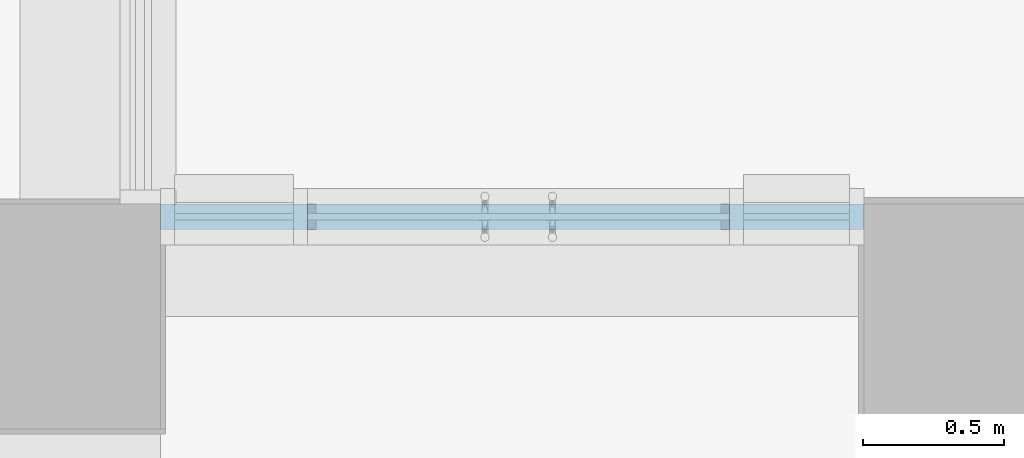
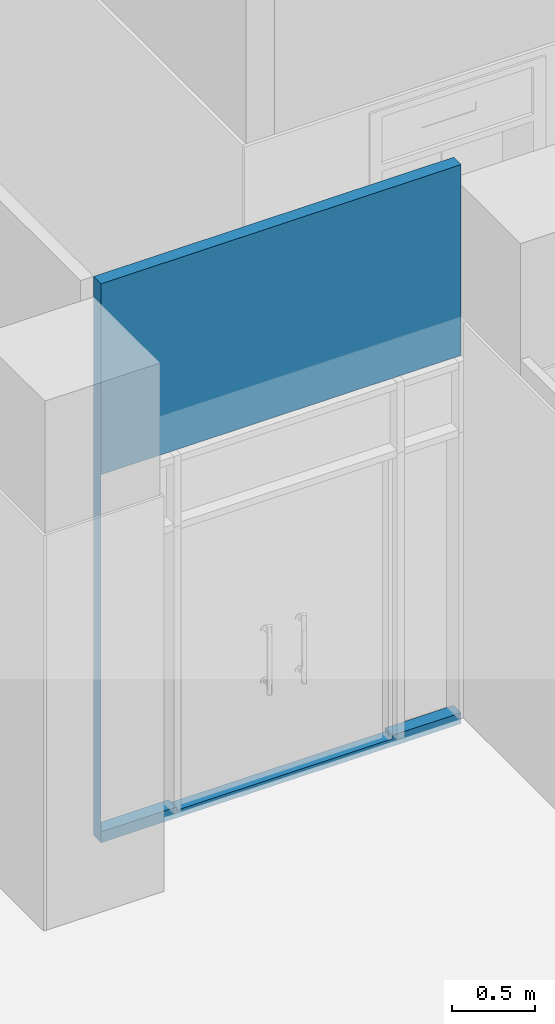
# One storey, part 44 of 76: 1 wall, 5 openings.
"""IFC2X3 building model written with IfcOpenShell, lengths in millimetres."""

import ifcopenshell
import ifcopenshell.guid

model = None  # the IFC model being written
_history = None  # IfcOwnerHistory: only IFC2X3 demands one
_inside = {}  # id of a spatial element -> (the spatial element, [elements in it])
_under = {}  # id of a project, library or spatial element -> (it, [spatial elements below it])
_declared = {}  # id of a project -> (the project, [libraries it declares])
_typed = {}  # id of a type object -> (the type object, [elements of that type])
_made_of = {}  # id of a material, layer set ... -> (it, [elements and type objects made of it])


def new_model(schema):
    """Start an empty IFC model of exactly this schema.

    Asked for "IFC4X3", IfcOpenShell would pick the latest addendum, in which some entities
    have other attributes; the version numbers below select the first issue.
    IFC2X3 requires an IfcOwnerHistory on every rooted entity: one is made here for all.
    """
    global model, _history
    if schema == "IFC4X3":
        model = ifcopenshell.file(schema_version=(4, 3, 0, 0))
    else:
        model = ifcopenshell.file(schema=schema)
    _inside.clear()
    _under.clear()
    _declared.clear()
    _typed.clear()
    _made_of.clear()
    _history = None
    if model.schema == "IFC2X3":
        org = make("IfcOrganization", Name="unknown")
        user = make(
            "IfcPersonAndOrganization",
            ThePerson=make("IfcPerson", FamilyName="unknown"),
            TheOrganization=org,
        )
        app = make(
            "IfcApplication",
            ApplicationDeveloper=org,
            Version="unknown",
            ApplicationFullName="unknown",
            ApplicationIdentifier="unknown",
        )
        _history = make(
            "IfcOwnerHistory",
            OwningUser=user,
            OwningApplication=app,
            ChangeAction="ADDED",
            CreationDate=0,
        )
    return model


def make(cls, **values):
    """One entity of the class cls with the attributes given. An attribute that is None is left unset."""
    return model.create_entity(
        cls, **{name: value for name, value in values.items() if value is not None}
    )


def entity(cls, *values):
    """Any entity or typed value of the class cls, its attributes in the order of the schema. None: left unset."""
    e = model.create_entity(cls)
    for i, value in enumerate(values):
        if value is not None:
            e[i] = value
    return e


def rooted(cls, **values):
    """An entity with a GlobalId (a new one), such as an element, a storey or a relation."""
    return make(cls, GlobalId=ifcopenshell.guid.new(), OwnerHistory=_history, **values)


def si_unit(unit_type, name, prefix=None):
    """IfcSIUnit, for example si_unit("LENGTHUNIT", "METRE", prefix="MILLI")."""
    return make("IfcSIUnit", UnitType=unit_type, Prefix=prefix, Name=name)


def converted_unit(unit_type, name, factor, base, dimensions=None, offset=None):
    """IfcConversionBasedUnit, such as the inch: factor (a typed value) times the base unit."""
    return make(
        "IfcConversionBasedUnit"
        if offset is None
        else "IfcConversionBasedUnitWithOffset",
        ConversionOffset=offset,
        Dimensions=None
        if dimensions is None
        else entity("IfcDimensionalExponents", *dimensions),
        UnitType=unit_type,
        Name=name,
        ConversionFactor=make(
            "IfcMeasureWithUnit", ValueComponent=factor, UnitComponent=base
        ),
    )


def derived_unit(unit_type, elements):
    """IfcDerivedUnit: a product of units, each with its exponent."""
    return make(
        "IfcDerivedUnit",
        Elements=[
            make("IfcDerivedUnitElement", Unit=unit, Exponent=power)
            for unit, power in elements
        ],
        UnitType=unit_type,
    )


def assignment(units):
    """IfcUnitAssignment: the units of a project."""
    return None if units is None else make("IfcUnitAssignment", Units=units)


def point(xyz):
    """IfcCartesianPoint."""
    return None if xyz is None else make("IfcCartesianPoint", Coordinates=xyz)


def direction(xyz):
    """IfcDirection."""
    return None if xyz is None else make("IfcDirection", DirectionRatios=xyz)


def frame(location, z_axis=None, x_axis=None):
    """IfcAxis2Placement3D, a coordinate frame: its origin and axes. An axis left out is left unset."""
    return make(
        "IfcAxis2Placement3D",
        Location=point(location),
        Axis=direction(z_axis),
        RefDirection=direction(x_axis),
    )


def frame_2d(location, x_axis=None):
    """IfcAxis2Placement2D, a coordinate frame in the plane: its origin and x axis."""
    return make(
        "IfcAxis2Placement2D", Location=point(location), RefDirection=direction(x_axis)
    )


def origin():
    """The frame at (0, 0, 0) with its axes left unset."""
    return frame((0.0, 0.0, 0.0))


def place(relative_to, where):
    """IfcLocalPlacement: puts the frame where relative to a parent placement (None: the world)."""
    return make(
        "IfcLocalPlacement", PlacementRelTo=relative_to, RelativePlacement=where
    )


def context(
    kind, dimensions, precision=None, world=None, true_north=None, identifier=None
):
    """IfcGeometricRepresentationContext, for example the 3D "Model" context."""
    return make(
        "IfcGeometricRepresentationContext",
        ContextIdentifier=identifier,
        ContextType=kind,
        CoordinateSpaceDimension=dimensions,
        Precision=precision,
        WorldCoordinateSystem=world,
        TrueNorth=true_north,
    )


def subcontext(parent, identifier, kind, view, scale=None):
    """IfcGeometricRepresentationSubContext, for example "Body" below "Model"."""
    return make(
        "IfcGeometricRepresentationSubContext",
        ContextIdentifier=identifier,
        ContextType=kind,
        ParentContext=parent,
        TargetScale=scale,
        TargetView=view,
    )


def project(units=None, contexts=None):
    """IfcProject with its units and contexts."""
    return rooted(
        "IfcProject",
        Name="project",
        RepresentationContexts=contexts,
        UnitsInContext=assignment(units),
    )


def spatial(cls, under=None, at=None, **own):
    """A site, building, storey or space (cls), placed at a placement, below another one or the project."""
    s = rooted(cls, ObjectPlacement=at, **own)
    if under is not None:
        _under.setdefault(under.id(), (under, []))[1].append(s)
    return s


def polyline(points):
    """IfcPolyline through the points."""
    return make("IfcPolyline", Points=[point(p) for p in points])


def profile(cls, at=None, kind="AREA", **sizes):
    """A parametric profile (cls). Its sizes go by their IFC names, for example OverallWidth=200.0."""
    return make(cls, ProfileType=kind, Position=at, **sizes)


def rectangle(**sizes):
    """IfcRectangleProfileDef."""
    return profile("IfcRectangleProfileDef", **sizes)


def outline(outer, holes=None, kind="AREA"):
    """IfcArbitraryClosedProfileDef: a profile drawn as a closed curve; with holes, ...WithVoids."""
    if holes is None:
        return make("IfcArbitraryClosedProfileDef", ProfileType=kind, OuterCurve=outer)
    return make(
        "IfcArbitraryProfileDefWithVoids",
        ProfileType=kind,
        OuterCurve=outer,
        InnerCurves=holes,
    )


def extrude(swept, where, along, depth):
    """IfcExtrudedAreaSolid: the profile swept, set in the frame where, extruded along a direction by depth."""
    return make(
        "IfcExtrudedAreaSolid",
        SweptArea=swept,
        Position=where,
        ExtrudedDirection=direction(along),
        Depth=depth,
    )


def shape(context_of_items, identifier, shape_type, items):
    """IfcShapeRepresentation: the items that make up one representation, for example the "Body"."""
    return make(
        "IfcShapeRepresentation",
        ContextOfItems=context_of_items,
        RepresentationIdentifier=identifier,
        RepresentationType=shape_type,
        Items=items,
    )


def material(Name=None, Category=None):
    """IfcMaterial."""
    return make("IfcMaterial", Name=Name, Category=Category)


def layer(
    of_material, thickness, ventilated=None, Name=None, Category=None, Priority=None
):
    """IfcMaterialLayer: one layer of a wall or slab, of a material (None: an air gap)."""
    return make(
        "IfcMaterialLayer",
        Material=of_material,
        LayerThickness=thickness,
        IsVentilated=ventilated,
        Name=Name,
        Category=Category,
        Priority=Priority,
    )


def layer_set(layers, Name=None):
    """IfcMaterialLayerSet."""
    return make("IfcMaterialLayerSet", MaterialLayers=layers, LayerSetName=Name)


def layer_usage(for_layer_set, set_direction, sense, offset, extent=None):
    """IfcMaterialLayerSetUsage: how a layer set lies in its element."""
    return make(
        "IfcMaterialLayerSetUsage",
        ForLayerSet=for_layer_set,
        LayerSetDirection=set_direction,
        DirectionSense=sense,
        OffsetFromReferenceLine=offset,
        ReferenceExtent=extent,
    )


def made_of(thing, what):
    """Note that an element or type object is made of a material, layer set ...; save() writes the relation."""
    if what is not None:
        _made_of.setdefault(what.id(), (what, []))[1].append(thing)
    return thing


def type_object(cls, material=None, **own):
    """A type object (cls), such as IfcWallType, which elements share."""
    return made_of(rooted(cls, **own), material)


def element(
    cls,
    number,
    at=None,
    inside=None,
    cuts=None,
    type_object=None,
    material=None,
    context=None,
    identifier="Body",
    shape_type=None,
    held_by="IfcProductDefinitionShape",
    body=None,
    shapes=None,
    **own,
):
    """One element of the class cls, such as IfcWall. Its Tag is "e" and its number.

    at: its placement. inside: the storey or other place that contains it. cuts: it is an
    opening in that element (IfcRelVoidsElement). A single representation is given by context,
    identifier, shape_type and body (its items); several are given by shapes. held_by: the class
    of the entity that holds the representations. save() writes the other relations.
    """
    e = rooted(cls, Tag="e%d" % number, ObjectPlacement=at, **own)
    if body is not None:
        shapes = [shape(context, identifier, shape_type, body)]
    if shapes is not None:
        e.Representation = make(held_by, Representations=shapes)
    if inside is not None:
        _inside.setdefault(inside.id(), (inside, []))[1].append(e)
    if cuts is not None:
        rooted(
            "IfcRelVoidsElement", RelatingBuildingElement=cuts, RelatedOpeningElement=e
        )
    if type_object is not None:
        _typed.setdefault(type_object.id(), (type_object, []))[1].append(e)
    return made_of(e, material)


def aggregate(whole, parts):
    """IfcRelAggregates: a whole, such as a stair, and the parts it consists of."""
    return rooted("IfcRelAggregates", RelatingObject=whole, RelatedObjects=parts)


def save(model, path):
    """Write the relations noted so far, then the file.

    IfcRelAggregates (storeys below a building ...), IfcRelContainedInSpatialStructure (elements
    in a storey), IfcRelDefinesByType, IfcRelAssociatesMaterial and IfcRelDeclares: one each for
    every whole, place, type object, material and project.
    """
    for whole, parts in _under.values():
        aggregate(whole, parts)
    for where, things in _inside.values():
        rooted(
            "IfcRelContainedInSpatialStructure",
            RelatedElements=things,
            RelatingStructure=where,
        )
    for kind, things in _typed.values():
        rooted("IfcRelDefinesByType", RelatedObjects=things, RelatingType=kind)
    for what, things in _made_of.values():
        rooted("IfcRelAssociatesMaterial", RelatedObjects=things, RelatingMaterial=what)
    for by, libraries in _declared.values():
        rooted("IfcRelDeclares", RelatingContext=by, RelatedDefinitions=libraries)
    model.write(path)


model = new_model("IFC2X3")

# Units and contexts
model_context = context("Model", 3, precision=0.01, world=origin(), true_north=direction((6.123031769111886e-17, 1.0)))
body_context = subcontext(model_context, "Body", "Model", "MODEL_VIEW")
ifc_project = project(units=[si_unit("LENGTHUNIT", "METRE", prefix="MILLI"), si_unit("AREAUNIT", "SQUARE_METRE"), si_unit("VOLUMEUNIT", "CUBIC_METRE"), converted_unit("PLANEANGLEUNIT", "DEGREE", entity("IfcRatioMeasure", 0.017453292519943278), si_unit("PLANEANGLEUNIT", "RADIAN"), dimensions=[0, 0, 0, 0, 0, 0, 0]), si_unit("MASSUNIT", "GRAM", prefix="KILO"), derived_unit("MASSDENSITYUNIT", [(si_unit("MASSUNIT", "GRAM", prefix="KILO"), 1), (si_unit("LENGTHUNIT", "METRE"), -3)]), derived_unit("MOMENTOFINERTIAUNIT", [(si_unit("LENGTHUNIT", "METRE"), 4)]), si_unit("TIMEUNIT", "SECOND"), si_unit("FREQUENCYUNIT", "HERTZ"), si_unit("THERMODYNAMICTEMPERATUREUNIT", "DEGREE_CELSIUS"), derived_unit("THERMALTRANSMITTANCEUNIT", [(si_unit("MASSUNIT", "GRAM", prefix="KILO"), 1), (si_unit("THERMODYNAMICTEMPERATUREUNIT", "KELVIN"), -1), (si_unit("TIMEUNIT", "SECOND"), -3)]), derived_unit("VOLUMETRICFLOWRATEUNIT", [(si_unit("LENGTHUNIT", "METRE"), 3), (si_unit("TIMEUNIT", "SECOND"), -1)]), derived_unit("MASSFLOWRATEUNIT", [(si_unit("MASSUNIT", "GRAM", prefix="KILO"), 1), (si_unit("TIMEUNIT", "SECOND"), -1)]), derived_unit("ROTATIONALFREQUENCYUNIT", [(si_unit("TIMEUNIT", "SECOND"), -1)]), si_unit("ELECTRICCURRENTUNIT", "AMPERE"), si_unit("ELECTRICVOLTAGEUNIT", "VOLT"), si_unit("POWERUNIT", "WATT"), si_unit("FORCEUNIT", "NEWTON", prefix="KILO"), si_unit("ILLUMINANCEUNIT", "LUX"), si_unit("LUMINOUSFLUXUNIT", "LUMEN"), si_unit("LUMINOUSINTENSITYUNIT", "CANDELA"), derived_unit("USERDEFINED", [(si_unit("MASSUNIT", "GRAM", prefix="KILO"), -1), (si_unit("LENGTHUNIT", "METRE"), -2), (si_unit("TIMEUNIT", "SECOND"), 3), (si_unit("LUMINOUSFLUXUNIT", "LUMEN"), 1)]), derived_unit("SOUNDPOWERUNIT", [(si_unit("MASSUNIT", "GRAM", prefix="KILO"), 1), (si_unit("LENGTHUNIT", "METRE"), 2), (si_unit("TIMEUNIT", "SECOND"), -3)]), derived_unit("SOUNDPRESSUREUNIT", [(si_unit("MASSUNIT", "GRAM", prefix="KILO"), 1), (si_unit("LENGTHUNIT", "METRE"), -1), (si_unit("TIMEUNIT", "SECOND"), -2)]), derived_unit("LINEARVELOCITYUNIT", [(si_unit("LENGTHUNIT", "METRE"), 1), (si_unit("TIMEUNIT", "SECOND"), -1)]), si_unit("PRESSUREUNIT", "PASCAL"), derived_unit("USERDEFINED", [(si_unit("LENGTHUNIT", "METRE"), -2), (si_unit("MASSUNIT", "GRAM", prefix="KILO"), 1), (si_unit("TIMEUNIT", "SECOND"), -2)]), derived_unit("LINEARFORCEUNIT", [(si_unit("MASSUNIT", "GRAM", prefix="KILO"), 1), (si_unit("LENGTHUNIT", "METRE"), 1), (si_unit("TIMEUNIT", "SECOND"), -2), (si_unit("LENGTHUNIT", "METRE"), -1)]), derived_unit("PLANARFORCEUNIT", [(si_unit("MASSUNIT", "GRAM", prefix="KILO"), 1), (si_unit("LENGTHUNIT", "METRE"), 1), (si_unit("TIMEUNIT", "SECOND"), -2), (si_unit("LENGTHUNIT", "METRE"), -2)])], contexts=[model_context])

# Site, building, storey
site_placement = place(None, frame((-14167.972527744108, -657.2125860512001, 0.0)))
site = spatial("IfcSite", under=ifc_project, at=site_placement, Name="Default", CompositionType="ELEMENT")
building_placement = place(site_placement, origin())
building = spatial("IfcBuilding", under=site, at=building_placement, Name="Sample Building", CompositionType="ELEMENT")
storey_placement = place(building_placement, frame((0.0, 0.0, 9300.0)))
storey = spatial("IfcBuildingStorey", under=building, at=storey_placement, Name="지상 3층", CompositionType="ELEMENT", Elevation=9300.000000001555)

# Wall, openings
ifc_material = material(Name="KBIMS-시멘트 벽돌")
ifc_layer = layer(ifc_material, 90.0)
ifc_layer_set = layer_set([ifc_layer], Name="기본 벽:WA211-시멘트벽돌(일반) 벽 (0.5B) 90mm")
ifc_layer_usage = layer_usage(ifc_layer_set, "AXIS2", "POSITIVE", -45.0)
wall_type = type_object("IfcWallType", Name="기본 벽:WA211-시멘트벽돌(일반) 벽 (0.5B) 90mm", PredefinedType="STANDARD", material=ifc_layer_set)
wall_placement = place(storey_placement, frame((30066.616317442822, 13012.212307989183, -2.297844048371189e-09), z_axis=(0.0, 0.0, 1.0), x_axis=(-1.0, 0.0, 0.0)))
wall = element("IfcWallStandardCase", 1, at=wall_placement, inside=storey, type_object=wall_type, material=ifc_layer_usage, Name="기본 벽:WA211-시멘트벽돌(일반) 벽 (0.5B) 90mm", ObjectType="기본 벽:WA211-시멘트벽돌(일반) 벽 (0.5B) 90mm", context=body_context, shape_type="SweptSolid", body=[
    extrude(rectangle(XDim=2498.661175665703, YDim=89.99999999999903, at=frame_2d((1249.3305878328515, 1.0835776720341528e-12), x_axis=(-1.0, 0.0))), origin(), (0.0, 0.0, 1.0), 4100.0000000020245),
])
opening_1_placement = place(wall_placement, origin())
element("IfcOpeningElement", 2, at=opening_1_placement, cuts=wall, Name="기본 벽:WA211-시멘트벽돌(일반) 벽 (0.5B) 90mm", ObjectType="Opening", context=body_context, shape_type="SweptSolid", body=[
    extrude(outline(polyline([(-1446.2500000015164, -1261.5707872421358), (1173.7500000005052, -1261.5707872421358), (1173.7500000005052, -738.4252873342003), (-901.2499999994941, -738.4252873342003), (-901.2499999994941, 761.5747126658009), (1173.7500000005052, 761.5747126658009), (1173.7500000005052, 1238.4213619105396), (-1446.2500000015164, 1238.4213619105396), (-1446.2500000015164, -1261.5707872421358)])), frame((1237.0652156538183, -197.4000000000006, 1253.7500000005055), z_axis=(0.0, 1.0, 0.0), x_axis=(0.0, 0.0, -1.0)), (0.0, 0.0, 1.0), 394.79999999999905),
])
opening_2_placement = place(wall_placement, origin())
element("IfcOpeningElement", 3, at=opening_2_placement, cuts=wall, Name="기본 벽:WA211-시멘트벽돌(일반) 벽 (0.5B) 90mm", ObjectType="Opening", context=body_context, shape_type="SweptSolid", body=[
    extrude(outline(polyline([(-5177.504344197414, -1446.2500000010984), (4722.513032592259, -1446.2500000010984), (4722.513032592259, 1173.7500000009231), (977.4956558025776, 1173.7500000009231), (977.4956558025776, -901.2500000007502), (-522.5043441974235, -901.2500000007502), (-522.5043441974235, 1173.7500000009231), (-5177.504344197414, 1173.7500000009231), (-5177.504344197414, -1446.2500000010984)])), frame((-5523.851829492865, -197.39999999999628, 1253.7500000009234), z_axis=(0.0, 1.0, 0.0), x_axis=(1.0, 0.0, 0.0)), (0.0, 0.0, 1.0), 394.79999999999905),
])
opening_3_placement = place(wall_placement, origin())
element("IfcOpeningElement", 4, at=opening_3_placement, cuts=wall, Name="기본 벽:WA211-시멘트벽돌(일반) 벽 (0.5B) 90mm", ObjectType="Opening", context=body_context, shape_type="SweptSolid", body=[
    extrude(rectangle(XDim=2620.0000000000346, YDim=2249.9999999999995, at=frame_2d((4.320099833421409e-12, 1.1368683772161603e-12), x_axis=(0.0, 1.0))), frame((-12626.341418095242, -197.39999999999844, 1390.0), z_axis=(0.0, 1.0, 0.0), x_axis=(-1.0, 0.0, 0.0)), (0.0, 0.0, 1.0), 394.79999999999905),
])
opening_4_placement = place(wall_placement, origin())
element("IfcOpeningElement", 5, at=opening_4_placement, cuts=wall, Name="기본 벽:WA211-시멘트벽돌(일반) 벽 (0.5B) 90mm", ObjectType="Opening", context=body_context, shape_type="SweptSolid", body=[
    extrude(rectangle(XDim=2099.9999999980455, YDim=1500.0000000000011, at=frame_2d((0.0, 2.1600499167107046e-12), x_axis=(1.0, 0.0))), frame((-5296.356173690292, -1478.9825704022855, 1105.0), z_axis=(0.0, 1.0, 0.0), x_axis=(0.0, 0.0, 1.0)), (0.0, 0.0, 1.0), 3048.0),
])
opening_5_placement = place(wall_placement, frame((1975.4905029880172, 45.0, 55.0)))
element("IfcOpeningElement", 6, at=opening_5_placement, cuts=wall, Name="DR121-쌍여닫이문(철재, 일반, 양개):DR121-쌍여닫이문(유리, 일반, 양개) 1500x2100mm:1", ObjectType="Opening", context=body_context, shape_type="SweptSolid", body=[
    extrude(rectangle(XDim=2099.9999999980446, YDim=1500.0, at=frame_2d((1049.9999999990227, 750.0), x_axis=(1.0, 0.0))), frame((0.0, 0.0, 0.0), z_axis=(0.0, -1.0, 0.0), x_axis=(0.0, 0.0, 1.0)), (0.0, 0.0, 1.0), 90.0),
])

save(model, "model.ifc")
